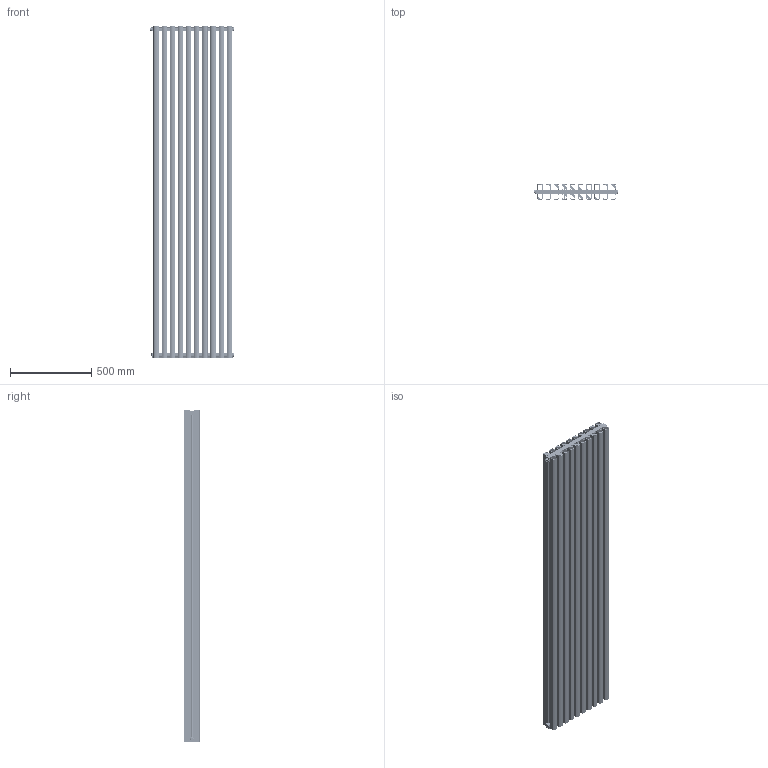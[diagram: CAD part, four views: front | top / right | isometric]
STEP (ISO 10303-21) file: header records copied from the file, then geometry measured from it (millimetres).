
FILE_DESCRIPTION (( 'STEP AP214' ), '1' );
FILE_NAME ('TONALE 2000_10.STEP', '2024-07-22T08:44:07', ( '' ), ( '' ), 'SwSTEP 2.0', 'SolidWorks 2024', '' );
FILE_SCHEMA (( 'AUTOMOTIVE_DESIGN' ));
Length unit declared in the file: millimetre
Products named in the file (12): P3EL00002A_2000; O-RING 2,4 D16,3; ETV600G_foro Ø 4; Coperchietto; Art.011; Assieme vitone con o_ring; Art.041; P3EL00004A_10 elementi; EPC10022D_1000; TONALE 2000_10; P3EL00004A_10 elementi CS
Assembly tree (55 placements, depth 3):
  TONALE 2000_10
    EPC10022D_1000  x10
    Art.011  x3
      Art.011
      Coperchietto
    Art.041
    Art.011  x4
    P3EL00002A_2000  x10
    P3EL00004A_10 elementi CS
    Assieme vitone con o_ring  x20
      ETV600G_foro Ø 4
      O-RING 2,4 D16,3
    P3EL00004A_10 elementi
Bounding box: 516.3 x 95 x 2039.3 mm (x, y, z)
Volume: 12023353.1 mm3; surface area: 14714489 mm2
Topology: 96 solids, 96 shells, 6014 faces, 16529 edges, 10518 vertices
Faces by surface type: plane 2562, cylinder 2510, cone 574, torus 190, bspline 138, sphere 40
Entity records: 36003 total; most frequent: CARTESIAN_POINT 13366, DIRECTION 4645, ORIENTED_EDGE 4638, EDGE_CURVE 2319, AXIS2_PLACEMENT_3D 1668, VERTEX_POINT 1503, LINE 1309, VECTOR 1309
